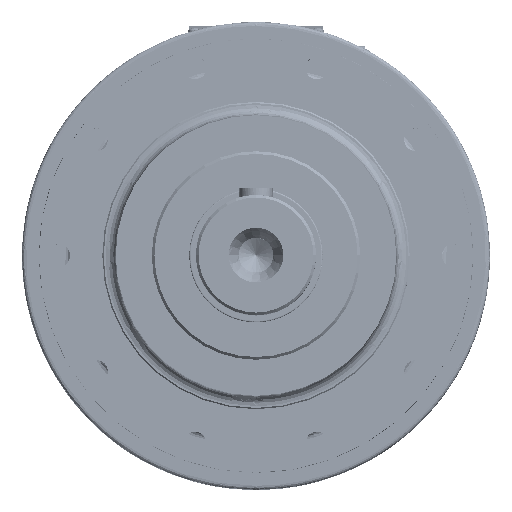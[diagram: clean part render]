
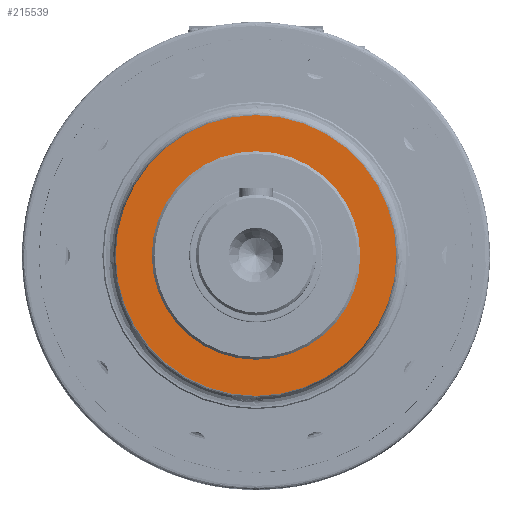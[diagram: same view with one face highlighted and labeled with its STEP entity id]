
A CAD part, top view. The second image highlights one B-rep face of the part: STEP entity #215539.
In plain terms, the highlighted planar face has unit normal (0, 0, 1).
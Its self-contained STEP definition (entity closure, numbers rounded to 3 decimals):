
#10667 = CARTESIAN_POINT ( 'NONE',  ( 0., 0., 181. ) ) ;
#10713 = DIRECTION ( 'NONE',  ( 0., 0., -1. ) ) ;
#10788 = DIRECTION ( 'NONE',  ( 0., 1., 0. ) ) ;
#63876 = VERTEX_POINT ( 'NONE', #235169 ) ;
#64112 = VERTEX_POINT ( 'NONE', #235718 ) ;
#64180 = VERTEX_POINT ( 'NONE', #236106 ) ;
#64214 = VERTEX_POINT ( 'NONE', #236286 ) ;
#99257 = FACE_OUTER_BOUND ( 'NONE', #337900, .T. ) ;
#99262 = FACE_BOUND ( 'NONE', #338457, .T. ) ;
#105413 = DIRECTION ( 'NONE',  ( 0., 0., 1. ) ) ;
#105417 = DIRECTION ( 'NONE',  ( 0., -1., 0. ) ) ;
#105429 = PLANE ( 'NONE',  #118376 ) ;
#105446 = CARTESIAN_POINT ( 'NONE',  ( 0., 105., 181. ) ) ;
#118376 = AXIS2_PLACEMENT_3D ( 'NONE', #105446, #105413, #105417 ) ;
#140309 = AXIS2_PLACEMENT_3D ( 'NONE', #10667, #10713, #10788 ) ;
#149808 = CIRCLE ( 'NONE', #359906, 105. ) ;
#149816 = CIRCLE ( 'NONE', #359931, 78. ) ;
#150053 = CIRCLE ( 'NONE', #360101, 78. ) ;
#166748 = CARTESIAN_POINT ( 'NONE',  ( 0., 0., 181. ) ) ;
#166847 = DIRECTION ( 'NONE',  ( 0., 0., -1. ) ) ;
#166956 = DIRECTION ( 'NONE',  ( 0., 1., 0. ) ) ;
#167118 = CARTESIAN_POINT ( 'NONE',  ( 0., 0., 181. ) ) ;
#167188 = DIRECTION ( 'NONE',  ( 0., 0., -1. ) ) ;
#167206 = DIRECTION ( 'NONE',  ( 0., 1., 0. ) ) ;
#168094 = DIRECTION ( 'NONE',  ( 0., 0., -1. ) ) ;
#168126 = CARTESIAN_POINT ( 'NONE',  ( 0., 0., 181. ) ) ;
#168207 = DIRECTION ( 'NONE',  ( 0., 1., 0. ) ) ;
#175240 = ORIENTED_EDGE ( 'NONE', *, *, #212281, .T. ) ;
#175577 = ORIENTED_EDGE ( 'NONE', *, *, #293844, .F. ) ;
#175629 = ORIENTED_EDGE ( 'NONE', *, *, #212158, .F. ) ;
#175840 = ORIENTED_EDGE ( 'NONE', *, *, #212168, .T. ) ;
#212158 = EDGE_CURVE ( 'NONE', #63876, #64112, #149808, .T. ) ;
#212168 = EDGE_CURVE ( 'NONE', #64180, #64214, #149816, .T. ) ;
#212281 = EDGE_CURVE ( 'NONE', #64214, #64180, #150053, .T. ) ;
#215539 = ADVANCED_FACE ( 'NONE', ( #99257, #99262 ), #105429, .T. ) ;
#235169 = CARTESIAN_POINT ( 'NONE',  ( 0., -105., 181. ) ) ;
#235718 = CARTESIAN_POINT ( 'NONE',  ( 0., 105., 181. ) ) ;
#236106 = CARTESIAN_POINT ( 'NONE',  ( 0., 78., 181. ) ) ;
#236286 = CARTESIAN_POINT ( 'NONE',  ( 0., -78., 181. ) ) ;
#293844 = EDGE_CURVE ( 'NONE', #64112, #63876, #346400, .T. ) ;
#337900 = EDGE_LOOP ( 'NONE', ( #175577, #175629 ) ) ;
#338457 = EDGE_LOOP ( 'NONE', ( #175840, #175240 ) ) ;
#346400 = CIRCLE ( 'NONE', #140309, 105. ) ;
#359906 = AXIS2_PLACEMENT_3D ( 'NONE', #166748, #166847, #166956 ) ;
#359931 = AXIS2_PLACEMENT_3D ( 'NONE', #167118, #167188, #167206 ) ;
#360101 = AXIS2_PLACEMENT_3D ( 'NONE', #168126, #168094, #168207 ) ;
